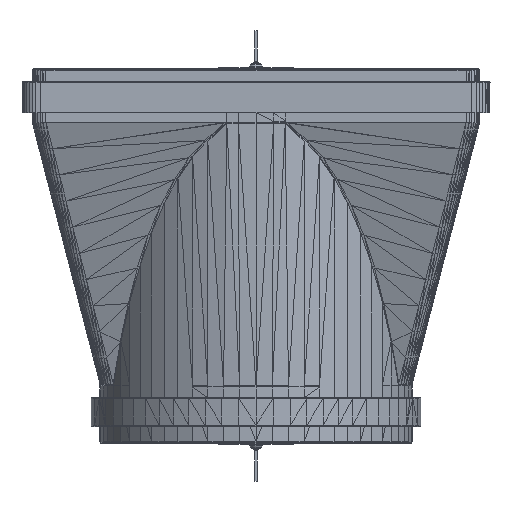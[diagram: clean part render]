
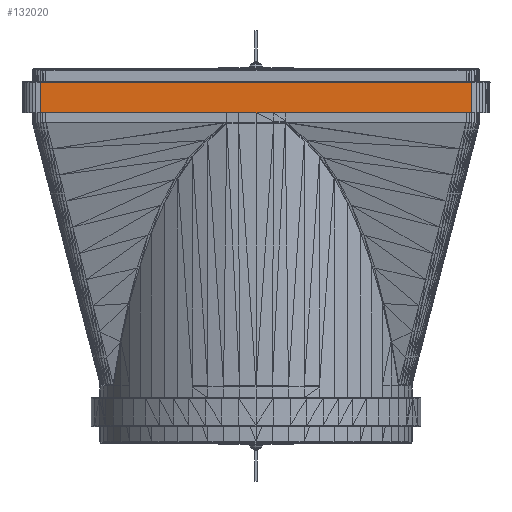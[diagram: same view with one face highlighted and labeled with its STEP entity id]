
A CAD part, front view. The second image highlights one B-rep face of the part: STEP entity #132020.
In plain terms, the highlighted planar face has unit normal (0, -1, 0).
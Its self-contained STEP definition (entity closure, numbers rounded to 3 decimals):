
#23057 = VERTEX_POINT('',#23058);
#23058 = CARTESIAN_POINT('',(216.245,0.,191.673));
#83591 = VERTEX_POINT('',#83592);
#83592 = CARTESIAN_POINT('',(8.755,0.,191.673));
#91445 = EDGE_CURVE('',#91446,#83591,#91448,.T.);
#91446 = VERTEX_POINT('',#91447);
#91447 = CARTESIAN_POINT('',(8.755,0.,177.171));
#91448 = LINE('',#91449,#91450);
#91449 = CARTESIAN_POINT('',(8.755,0.,177.171));
#91450 = VECTOR('',#91451,1.);
#91451 = DIRECTION('',(0.,0.,1.));
#116591 = VERTEX_POINT('',#116592);
#116592 = CARTESIAN_POINT('',(216.245,0.,177.171));
#117336 = VERTEX_POINT('',#117337);
#117337 = CARTESIAN_POINT('',(126.93,0.,177.171));
#117343 = EDGE_CURVE('',#117344,#117336,#117346,.T.);
#117344 = VERTEX_POINT('',#117345);
#117345 = CARTESIAN_POINT('',(98.07,0.,177.171));
#117346 = LINE('',#117347,#117348);
#117347 = CARTESIAN_POINT('',(121.266,0.,177.171));
#117348 = VECTOR('',#117349,1.);
#117349 = DIRECTION('',(1.,0.,0.));
#131971 = EDGE_CURVE('',#83591,#23057,#131972,.T.);
#131972 = LINE('',#131973,#131974);
#131973 = CARTESIAN_POINT('',(8.755,0.,191.673));
#131974 = VECTOR('',#131975,1.);
#131975 = DIRECTION('',(1.,0.,0.));
#132020 = ADVANCED_FACE('',(#132021),#132044,.T.);
#132021 = FACE_BOUND('',#132022,.T.);
#132022 = EDGE_LOOP('',(#132023,#132024,#132025,#132031,#132032,#132038)
  );
#132023 = ORIENTED_EDGE('',*,*,#131971,.F.);
#132024 = ORIENTED_EDGE('',*,*,#91445,.F.);
#132025 = ORIENTED_EDGE('',*,*,#132026,.T.);
#132026 = EDGE_CURVE('',#91446,#117344,#132027,.T.);
#132027 = LINE('',#132028,#132029);
#132028 = CARTESIAN_POINT('',(8.755,0.,177.171));
#132029 = VECTOR('',#132030,1.);
#132030 = DIRECTION('',(1.,0.,0.));
#132031 = ORIENTED_EDGE('',*,*,#117343,.T.);
#132032 = ORIENTED_EDGE('',*,*,#132033,.T.);
#132033 = EDGE_CURVE('',#117336,#116591,#132034,.T.);
#132034 = LINE('',#132035,#132036);
#132035 = CARTESIAN_POINT('',(126.93,0.,177.171));
#132036 = VECTOR('',#132037,1.);
#132037 = DIRECTION('',(1.,0.,0.));
#132038 = ORIENTED_EDGE('',*,*,#132039,.F.);
#132039 = EDGE_CURVE('',#23057,#116591,#132040,.T.);
#132040 = LINE('',#132041,#132042);
#132041 = CARTESIAN_POINT('',(216.245,0.,191.673));
#132042 = VECTOR('',#132043,1.);
#132043 = DIRECTION('',(0.,0.,-1.));
#132044 = PLANE('',#132045);
#132045 = AXIS2_PLACEMENT_3D('',#132046,#132047,#132048);
#132046 = CARTESIAN_POINT('',(112.5,0.,184.422));
#132047 = DIRECTION('',(-0.,-1.,-0.));
#132048 = DIRECTION('',(0.,0.,-1.));
